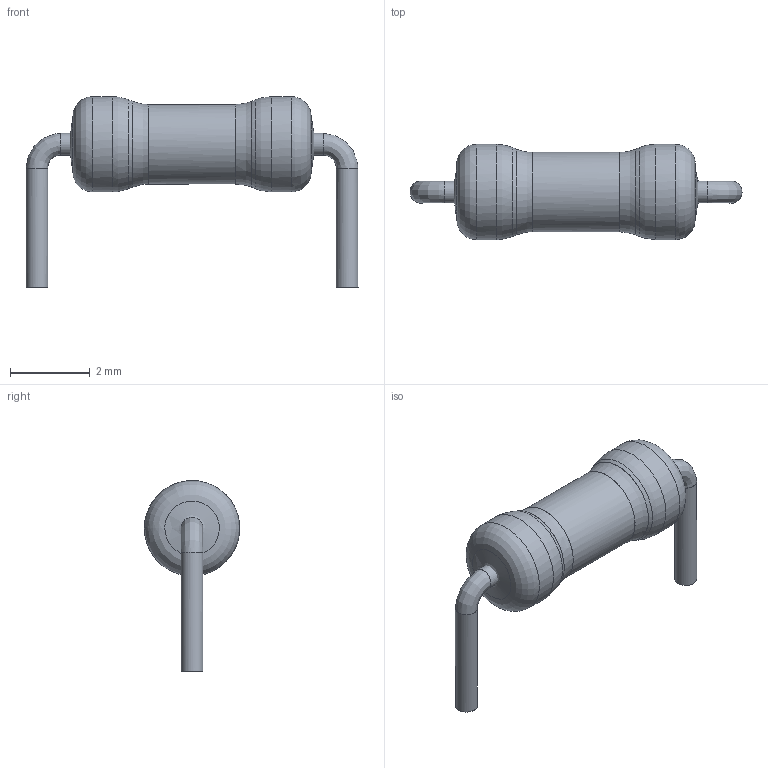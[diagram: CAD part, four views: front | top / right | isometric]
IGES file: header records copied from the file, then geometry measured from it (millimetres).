
Global section: file name: Filename.iges; native system: Open CASCADE 6.8; preprocessor: Open CASCADE IGES processor 6.8; date: 20170201.223320; units: millimetre
Bounding box: 8.35 x 2.4 x 4.8 mm (x, y, z)
Surface area: 72.9 mm2 (no closed solid volume)
Topology: 0 solids, 0 shells, 20 faces, 93 edges, 59 vertices
Faces by surface type: revolution 18, plane 2
